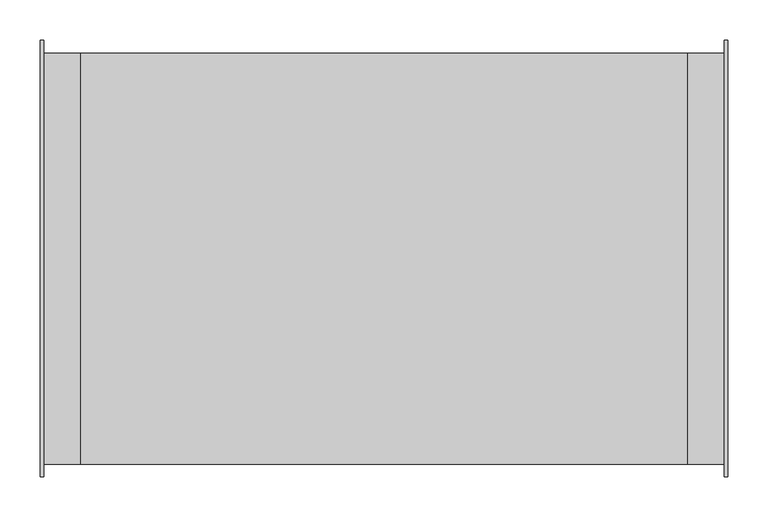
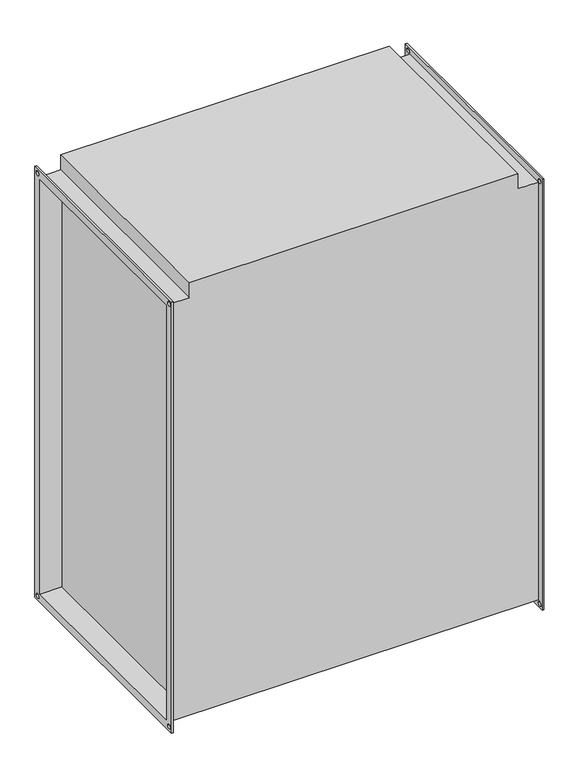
"""IFC4 building model written with IfcOpenShell, lengths in millimetres: proxy geometry, СВ_ВоздухонагревательЭлектрический_КанальныйПрямоугольный_200-1000_SPH-E : SPH-E-1000x500/45."""

from ifc_helpers import new_model, si_unit, frame, origin, place, context, project, spatial, polyline, circle_curve, source, transform, mapped, element, save
from ifc_brep_helpers import plane_surface, revolved_surface, advanced_brep


def mechanical_equipment_3be20053(model_context):
    return source(origin(), model_context, "Body", "AdvancedBrep", [
        advanced_brep(
        [(-375.0, -254.0, 504.0), (-421.0, -254.0, 504.0), (-421.0, -254.0, -504.0), (421.0, -254.0, -504.0), (421.0, -254.0, 504.0), (375.0, -254.0, 504.0), (375.0, -254.0, 540.0), (-375.0, -254.0, 540.0), (-421.0, 254.0, -504.0), (421.0, 254.0, -504.0), (-421.0, 254.0, 504.0), (-375.0, 254.0, 504.0), (-375.0, 254.0, 540.0), (375.0, 254.0, 540.0), (375.0, 254.0, 504.0), (421.0, 254.0, 504.0), (375.0, 250.0, -500.0), (375.0, 250.0, 500.0), (375.0, -250.0, 500.0), (375.0, -250.0, -500.0), (-375.0, -250.0, 500.0), (-375.0, 250.0, 500.0), (-375.0, 250.0, -500.0), (-375.0, -250.0, -500.0), (-425.0, -270.0, 520.0), (-425.0, 270.0, 520.0), (-425.0, 270.0, -520.0), (-425.0, -270.0, -520.0), (-425.0, -250.0, 500.0), (-425.0, -250.0, -500.0), (-425.0, 250.0, -500.0), (-425.0, 250.0, 500.0), (-425.0, 255.0, 510.0), (-425.0, 265.0, 510.0), (-425.0, -265.0, 510.0), (-425.0, -255.0, 510.0), (-425.0, -265.0, -510.0), (-425.0, -255.0, -510.0), (-425.0, 255.0, -510.0), (-425.0, 265.0, -510.0), (-421.0, -270.0, 520.0), (-421.0, -270.0, -520.0), (-421.0, 270.0, -520.0), (-421.0, 270.0, 520.0), (-421.0, 265.0, 510.0), (-421.0, 255.0, 510.0), (-421.0, -255.0, 510.0), (-421.0, -265.0, 510.0), (-421.0, -255.0, -510.0), (-421.0, -265.0, -510.0), (-421.0, 265.0, -510.0), (-421.0, 255.0, -510.0), (421.0, 270.0, 520.0), (421.0, 270.0, -520.0), (421.0, -270.0, -520.0), (421.0, -270.0, 520.0), (421.0, 255.0, 510.0), (421.0, 265.0, 510.0), (421.0, -265.0, 510.0), (421.0, -255.0, 510.0), (421.0, -265.0, -510.0), (421.0, -255.0, -510.0), (421.0, 255.0, -510.0), (421.0, 265.0, -510.0), (425.0, 270.0, 520.0), (425.0, -270.0, 520.0), (425.0, -270.0, -520.0), (425.0, 270.0, -520.0), (425.0, 250.0, 500.0), (425.0, 250.0, -500.0), (425.0, -250.0, -500.0), (425.0, -250.0, 500.0), (425.0, 265.0, 510.0), (425.0, 255.0, 510.0), (425.0, -255.0, 510.0), (425.0, -265.0, 510.0), (425.0, -255.0, -510.0), (425.0, -265.0, -510.0), (425.0, 265.0, -510.0), (425.0, 255.0, -510.0)],
        [
            (0, 1),
            (1, 2),
            (2, 3),
            (3, 4),
            (4, 5),
            (5, 6),
            (6, 7),
            (7, 0),
            (2, 8),
            (8, 9),
            (9, 3),
            (10, 11),
            (11, 12),
            (12, 13),
            (13, 14),
            (14, 15),
            (15, 9),
            (8, 10),
            (0, 11),
            (10, 1),
            (13, 6),
            (5, 14),
            (16, 17),
            (17, 18),
            (18, 19),
            (19, 16),
            (7, 12),
            (20, 21),
            (21, 22),
            (22, 23),
            (23, 20),
            (4, 15),
            (24, 25),
            (25, 26),
            (26, 27),
            (27, 24),
            (28, 29),
            (29, 30),
            (30, 31),
            (31, 28),
            (32, 33, circle_curve(frame((-425.0, 260.0, 510.0), z_axis=(1.0, 0.0, 0.0), x_axis=(0.0, 1.0, 0.0)), 5.0)),
            (33, 32, circle_curve(frame((-425.0, 260.0, 510.0), z_axis=(1.0, 0.0, 0.0), x_axis=(0.0, 1.0, 0.0)), 5.0)),
            (34, 35, circle_curve(frame((-425.0, -260.0, 510.0), z_axis=(1.0, 0.0, 0.0), x_axis=(0.0, 1.0, 0.0)), 5.0)),
            (35, 34, circle_curve(frame((-425.0, -260.0, 510.0), z_axis=(1.0, 0.0, 0.0), x_axis=(0.0, 1.0, 0.0)), 5.0)),
            (36, 37, circle_curve(frame((-425.0, -260.0, -510.0), z_axis=(1.0, 0.0, 0.0), x_axis=(0.0, 1.0, 0.0)), 5.0)),
            (37, 36, circle_curve(frame((-425.0, -260.0, -510.0), z_axis=(1.0, 0.0, 0.0), x_axis=(0.0, 1.0, 0.0)), 5.0)),
            (38, 39, circle_curve(frame((-425.0, 260.0, -510.0), z_axis=(1.0, 0.0, 0.0), x_axis=(0.0, 1.0, 0.0)), 5.0)),
            (39, 38, circle_curve(frame((-425.0, 260.0, -510.0), z_axis=(1.0, 0.0, 0.0), x_axis=(0.0, 1.0, 0.0)), 5.0)),
            (40, 41),
            (41, 42),
            (42, 43),
            (43, 40),
            (44, 45, circle_curve(frame((-421.0, 260.0, 510.0), z_axis=(-1.0, 0.0, 0.0), x_axis=(0.0, 1.0, 0.0)), 5.0)),
            (45, 44, circle_curve(frame((-421.0, 260.0, 510.0), z_axis=(-1.0, 0.0, 0.0), x_axis=(0.0, 1.0, 0.0)), 5.0)),
            (46, 47, circle_curve(frame((-421.0, -260.0, 510.0), z_axis=(-1.0, 0.0, 0.0), x_axis=(0.0, 1.0, 0.0)), 5.0)),
            (47, 46, circle_curve(frame((-421.0, -260.0, 510.0), z_axis=(-1.0, 0.0, 0.0), x_axis=(0.0, 1.0, 0.0)), 5.0)),
            (48, 49, circle_curve(frame((-421.0, -260.0, -510.0), z_axis=(-1.0, 0.0, 0.0), x_axis=(0.0, 1.0, 0.0)), 5.0)),
            (49, 48, circle_curve(frame((-421.0, -260.0, -510.0), z_axis=(-1.0, 0.0, 0.0), x_axis=(0.0, 1.0, 0.0)), 5.0)),
            (50, 51, circle_curve(frame((-421.0, 260.0, -510.0), z_axis=(-1.0, 0.0, 0.0), x_axis=(0.0, 1.0, 0.0)), 5.0)),
            (51, 50, circle_curve(frame((-421.0, 260.0, -510.0), z_axis=(-1.0, 0.0, 0.0), x_axis=(0.0, 1.0, 0.0)), 5.0)),
            (27, 41),
            (40, 24),
            (26, 42),
            (25, 43),
            (52, 53),
            (53, 54),
            (54, 55),
            (55, 52),
            (56, 57, circle_curve(frame((421.0, 260.0, 510.0), z_axis=(1.0, 0.0, 0.0), x_axis=(0.0, 1.0, 0.0)), 5.0)),
            (57, 56, circle_curve(frame((421.0, 260.0, 510.0), z_axis=(1.0, 0.0, 0.0), x_axis=(0.0, 1.0, 0.0)), 5.0)),
            (58, 59, circle_curve(frame((421.0, -260.0, 510.0), z_axis=(1.0, 0.0, 0.0), x_axis=(0.0, 1.0, 0.0)), 5.0)),
            (59, 58, circle_curve(frame((421.0, -260.0, 510.0), z_axis=(1.0, 0.0, 0.0), x_axis=(0.0, 1.0, 0.0)), 5.0)),
            (60, 61, circle_curve(frame((421.0, -260.0, -510.0), z_axis=(1.0, 0.0, 0.0), x_axis=(0.0, 1.0, 0.0)), 5.0)),
            (61, 60, circle_curve(frame((421.0, -260.0, -510.0), z_axis=(1.0, 0.0, 0.0), x_axis=(0.0, 1.0, 0.0)), 5.0)),
            (62, 63, circle_curve(frame((421.0, 260.0, -510.0), z_axis=(1.0, 0.0, 0.0), x_axis=(0.0, 1.0, 0.0)), 5.0)),
            (63, 62, circle_curve(frame((421.0, 260.0, -510.0), z_axis=(1.0, 0.0, 0.0), x_axis=(0.0, 1.0, 0.0)), 5.0)),
            (64, 65),
            (65, 66),
            (66, 67),
            (67, 64),
            (68, 69),
            (69, 70),
            (70, 71),
            (71, 68),
            (72, 73, circle_curve(frame((425.0, 260.0, 510.0), z_axis=(-1.0, 0.0, 0.0), x_axis=(0.0, 1.0, 0.0)), 5.0)),
            (73, 72, circle_curve(frame((425.0, 260.0, 510.0), z_axis=(-1.0, 0.0, 0.0), x_axis=(0.0, 1.0, 0.0)), 5.0)),
            (74, 75, circle_curve(frame((425.0, -260.0, 510.0), z_axis=(-1.0, 0.0, 0.0), x_axis=(0.0, 1.0, 0.0)), 5.0)),
            (75, 74, circle_curve(frame((425.0, -260.0, 510.0), z_axis=(-1.0, 0.0, 0.0), x_axis=(0.0, 1.0, 0.0)), 5.0)),
            (76, 77, circle_curve(frame((425.0, -260.0, -510.0), z_axis=(-1.0, 0.0, 0.0), x_axis=(0.0, 1.0, 0.0)), 5.0)),
            (77, 76, circle_curve(frame((425.0, -260.0, -510.0), z_axis=(-1.0, 0.0, 0.0), x_axis=(0.0, 1.0, 0.0)), 5.0)),
            (78, 79, circle_curve(frame((425.0, 260.0, -510.0), z_axis=(-1.0, 0.0, 0.0), x_axis=(0.0, 1.0, 0.0)), 5.0)),
            (79, 78, circle_curve(frame((425.0, 260.0, -510.0), z_axis=(-1.0, 0.0, 0.0), x_axis=(0.0, 1.0, 0.0)), 5.0)),
            (55, 65),
            (64, 52),
            (54, 66),
            (53, 67),
            (31, 21),
            (20, 28),
            (30, 22),
            (29, 23),
            (68, 17),
            (16, 69),
            (19, 70),
            (18, 71),
            (32, 45),
            (44, 33),
            (56, 73),
            (72, 57),
            (34, 47),
            (46, 35),
            (58, 75),
            (74, 59),
            (36, 49),
            (48, 37),
            (60, 77),
            (76, 61),
            (38, 51),
            (50, 39),
            (62, 79),
            (78, 63),
        ],
        [
            plane_surface(frame((-375.0, -254.0, 504.0), z_axis=(0.0, -1.0, 0.0), x_axis=(-1.0, 0.0, 0.0))),
            plane_surface(frame((-375.0, -254.0, -504.0), z_axis=(0.0, 0.0, -1.0), x_axis=(-1.0, 0.0, 0.0))),
            plane_surface(frame((-375.0, 254.0, -504.0), z_axis=(0.0, 1.0, 0.0), x_axis=(-1.0, 0.0, 0.0))),
            plane_surface(frame((-375.0, 254.0, 504.0), z_axis=(0.0, 0.0, 1.0), x_axis=(-1.0, 0.0, 0.0))),
            plane_surface(frame((375.0, -254.0, 540.0), z_axis=(1.0, 0.0, 0.0), x_axis=(0.0, 0.0, -1.0))),
            plane_surface(frame((-375.0, -254.0, 540.0), z_axis=(-1.0, 0.0, 0.0), x_axis=(0.0, 0.0, 1.0))),
            plane_surface(frame((375.0, 254.0, 540.0), z_axis=(0.0, 0.0, 1.0), x_axis=(-1.0, 0.0, 0.0))),
            plane_surface(frame((421.0, 254.0, 504.0), z_axis=(0.0, 0.0, 1.0), x_axis=(-1.0, 0.0, 0.0))),
            plane_surface(frame((-425.0, -270.0, 520.0), z_axis=(-1.0, 0.0, 0.0), x_axis=(0.0, 0.0, 1.0))),
            plane_surface(frame((-421.0, -270.0, 520.0), z_axis=(1.0, 0.0, 0.0), x_axis=(0.0, 0.0, -1.0))),
            plane_surface(frame((-421.0, -270.0, 520.0), z_axis=(0.0, -1.0, 0.0), x_axis=(-1.0, 0.0, 0.0))),
            plane_surface(frame((-421.0, -270.0, -520.0), z_axis=(0.0, 0.0, -1.0), x_axis=(-1.0, 0.0, 0.0))),
            plane_surface(frame((-421.0, 270.0, -520.0), z_axis=(0.0, 1.0, 0.0), x_axis=(-1.0, 0.0, 0.0))),
            plane_surface(frame((-421.0, 270.0, 520.0), z_axis=(0.0, 0.0, 1.0), x_axis=(-1.0, 0.0, 0.0))),
            plane_surface(frame((421.0, 250.0, -500.0), z_axis=(-1.0, 0.0, 0.0), x_axis=(0.0, 0.0, 1.0))),
            plane_surface(frame((425.0, 250.0, -500.0), z_axis=(1.0, 0.0, 0.0), x_axis=(0.0, 0.0, -1.0))),
            plane_surface(frame((425.0, 270.0, 520.0), z_axis=(0.0, 0.0, 1.0), x_axis=(-1.0, 0.0, 0.0))),
            plane_surface(frame((425.0, -270.0, 520.0), z_axis=(0.0, -1.0, 0.0), x_axis=(-1.0, 0.0, 0.0))),
            plane_surface(frame((425.0, -270.0, -520.0), z_axis=(0.0, 0.0, -1.0), x_axis=(-1.0, 0.0, 0.0))),
            plane_surface(frame((425.0, 270.0, -520.0), z_axis=(0.0, 1.0, 0.0), x_axis=(-1.0, 0.0, 0.0))),
            plane_surface(frame((-421.0, -250.0, 500.0), z_axis=(0.0, 0.0, -1.0), x_axis=(-1.0, 0.0, 0.0))),
            plane_surface(frame((-421.0, 250.0, 500.0), z_axis=(0.0, -1.0, 0.0), x_axis=(-1.0, 0.0, 0.0))),
            plane_surface(frame((-421.0, 250.0, -500.0), z_axis=(0.0, 0.0, 1.0), x_axis=(-1.0, 0.0, 0.0))),
            plane_surface(frame((-421.0, -250.0, -500.0), z_axis=(0.0, 1.0, 0.0), x_axis=(-1.0, 0.0, 0.0))),
            plane_surface(frame((425.0, 250.0, 500.0), z_axis=(0.0, -1.0, 0.0), x_axis=(-1.0, 0.0, 0.0))),
            plane_surface(frame((425.0, 250.0, -500.0), z_axis=(0.0, 0.0, 1.0), x_axis=(-1.0, 0.0, 0.0))),
            plane_surface(frame((425.0, -250.0, -500.0), z_axis=(0.0, 1.0, 0.0), x_axis=(-1.0, 0.0, 0.0))),
            plane_surface(frame((425.0, -250.0, 500.0), z_axis=(0.0, 0.0, -1.0), x_axis=(-1.0, 0.0, 0.0))),
            revolved_surface(polyline([(-421.0, 265.0, 510.0), (-425.0, 265.0, 510.0)]), (-425.0, 260.0, 510.0), (1.0, 0.0, 0.0)),
            revolved_surface(polyline([(425.0, 265.0, 510.0), (421.0, 265.0, 510.0)]), (-425.0, 260.0, 510.0), (1.0, 0.0, 0.0)),
            revolved_surface(polyline([(-421.0, -255.0, 510.0), (-425.0, -255.0, 510.0)]), (0.0, -260.0, 510.0), (1.0, 0.0, 0.0)),
            revolved_surface(polyline([(425.0, -255.0, 510.0), (421.0, -255.0, 510.0)]), (0.0, -260.0, 510.0), (1.0, 0.0, 0.0)),
            revolved_surface(polyline([(-421.0, -255.0, -510.0), (-425.0, -255.0, -510.0)]), (0.0, -260.0, -510.0), (1.0, 0.0, 0.0)),
            revolved_surface(polyline([(425.0, -255.0, -510.0), (421.0, -255.0, -510.0)]), (0.0, -260.0, -510.0), (1.0, 0.0, 0.0)),
            revolved_surface(polyline([(-421.0, 265.0, -510.0), (-425.0, 265.0, -510.0)]), (0.0, 260.0, -510.0), (1.0, 0.0, 0.0)),
            revolved_surface(polyline([(425.0, 265.0, -510.0), (421.0, 265.0, -510.0)]), (0.0, 260.0, -510.0), (1.0, 0.0, 0.0)),
        ],
        [
            (0, [[1, 2, 3, 4, 5, 6, 7, 8]]),
            (1, [[-3, 9, 10, 11]]),
            (2, [[12, 13, 14, 15, 16, 17, -10, 18]]),
            (3, [[-1, 19, -12, 20]]),
            (4, [[21, -6, 22, -15]]),
            (4, [[23, 24, 25, 26]]),
            (5, [[27, -13, -19, -8]]),
            (5, [[28, 29, 30, 31]]),
            (6, [[-21, -14, -27, -7]]),
            (7, [[-5, 32, -16, -22]]),
            (8, [[33, 34, 35, 36], [37, 38, 39, 40], [41, 42], [43, 44], [45, 46], [47, 48]]),
            (9, [[49, 50, 51, 52], [-2, -20, -18, -9], [53, 54], [55, 56], [57, 58], [59, 60]]),
            (10, [[-36, 61, -49, 62]]),
            (11, [[-35, 63, -50, -61]]),
            (12, [[-34, 64, -51, -63]]),
            (13, [[-33, -62, -52, -64]]),
            (14, [[65, 66, 67, 68], [-4, -11, -17, -32], [69, 70], [71, 72], [73, 74], [75, 76]]),
            (15, [[77, 78, 79, 80], [81, 82, 83, 84], [85, 86], [87, 88], [89, 90], [91, 92]]),
            (16, [[-68, 93, -77, 94]]),
            (17, [[-67, 95, -78, -93]]),
            (18, [[-66, 96, -79, -95]]),
            (19, [[-65, -94, -80, -96]]),
            (20, [[-40, 97, -28, 98]]),
            (21, [[-39, 99, -29, -97]]),
            (22, [[-38, 100, -30, -99]]),
            (23, [[-37, -98, -31, -100]]),
            (24, [[-81, 101, -23, 102]]),
            (25, [[-82, -102, -26, 103]]),
            (26, [[-83, -103, -25, 104]]),
            (27, [[-101, -84, -104, -24]]),
            (28, [[105, -53, 106, -41]]),
            (29, [[107, -85, 108, -69]]),
            (28, [[-105, -42, -106, -54]]),
            (29, [[-107, -70, -108, -86]]),
            (30, [[109, -55, 110, -43]]),
            (31, [[111, -87, 112, -71]]),
            (30, [[-109, -44, -110, -56]]),
            (31, [[-111, -72, -112, -88]]),
            (32, [[113, -57, 114, -45]]),
            (33, [[115, -89, 116, -73]]),
            (32, [[-113, -46, -114, -58]]),
            (33, [[-115, -74, -116, -90]]),
            (34, [[117, -59, 118, -47]]),
            (35, [[119, -91, 120, -75]]),
            (34, [[-117, -48, -118, -60]]),
            (35, [[-119, -76, -120, -92]]),
        ],
    ),
    ])


if __name__ == "__main__":
    model = new_model("IFC4")
    model_context = context("Model", 3, world=origin())
    ifc_project = project(units=[si_unit("LENGTHUNIT", "METRE", prefix="MILLI")], contexts=[model_context])
    site = spatial("IfcSite", under=ifc_project)
    building = spatial("IfcBuilding", under=site)
    placement = place(None, origin())
    mechanical_equipment_shape = mechanical_equipment_3be20053(model_context)
    element("IfcBuildingElementProxy", 1, Name="СВ_ВоздухонагревательЭлектрический_КанальныйПрямоугольный_200-1000_SPH-E : SPH-E-1000x500/45", ObjectType="СВ_ВоздухонагревательЭлектрический_КанальныйПрямоугольный_200-1000_SPH-E : SPH-E-1000x500/45", at=placement, inside=building, context=model_context, shape_type="MappedRepresentation", body=[
        mapped(mechanical_equipment_shape, transform((0.0, 0.0, 0.0), x_axis=(1.0, 0.0, 0.0), y_axis=(0.0, 1.0, 0.0), z_axis=(0.0, 0.0, 1.0))),
    ])
    save(model, "model.ifc")
